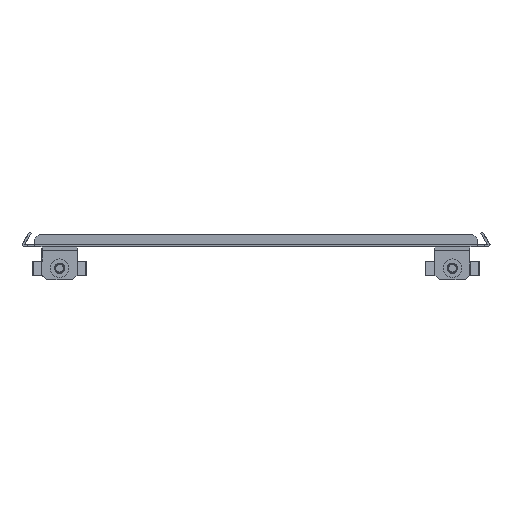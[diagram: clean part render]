
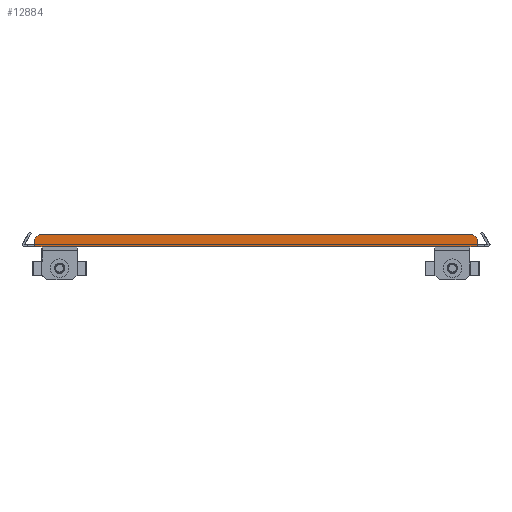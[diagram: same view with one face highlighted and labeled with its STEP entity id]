
A CAD part, left-side view. The second image highlights one B-rep face of the part: STEP entity #12884.
In plain terms, the highlighted planar face has unit normal (-1, 0, 0).
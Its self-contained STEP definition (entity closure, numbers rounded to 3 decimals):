
#278 = EDGE_CURVE ( 'NONE', #6383, #31876, #28405, .T. ) ;
#1086 = DIRECTION ( 'NONE',  ( 1., 0., 0. ) ) ;
#1773 = CARTESIAN_POINT ( 'NONE',  ( 1., -136.25, 6.5 ) ) ;
#1789 = VERTEX_POINT ( 'NONE', #21678 ) ;
#2214 = ORIENTED_EDGE ( 'NONE', *, *, #8541, .T. ) ;
#3262 = DIRECTION ( 'NONE',  ( 0., 0.707, -0.707 ) ) ;
#3403 = CARTESIAN_POINT ( 'NONE',  ( 1., -272.345, -1.5 ) ) ;
#3812 = VECTOR ( 'NONE', #18728, 1000. ) ;
#4441 = DIRECTION ( 'NONE',  ( 0., 0., -1. ) ) ;
#4830 = VECTOR ( 'NONE', #25253, 1000. ) ;
#5130 = VECTOR ( 'NONE', #15023, 1000. ) ;
#5813 = ORIENTED_EDGE ( 'NONE', *, *, #23209, .T. ) ;
#6383 = VERTEX_POINT ( 'NONE', #3403 ) ;
#7179 = ORIENTED_EDGE ( 'NONE', *, *, #27885, .T. ) ;
#7337 = VERTEX_POINT ( 'NONE', #25511 ) ;
#7494 = DIRECTION ( 'NONE',  ( 0., 0.707, 0.707 ) ) ;
#8541 = EDGE_CURVE ( 'NONE', #31957, #6383, #33841, .T. ) ;
#8567 = CARTESIAN_POINT ( 'NONE',  ( 1., -136.25, -1.5 ) ) ;
#8690 = AXIS2_PLACEMENT_3D ( 'NONE', #8567, #1086, #19688 ) ;
#8826 = LINE ( 'NONE', #32817, #16762 ) ;
#9122 = CARTESIAN_POINT ( 'NONE',  ( 1., 1.647, 6.5 ) ) ;
#9767 = DIRECTION ( 'NONE',  ( 0., 1., 0. ) ) ;
#10312 = CARTESIAN_POINT ( 'NONE',  ( 1., -136.25, -1.5 ) ) ;
#10639 = ORIENTED_EDGE ( 'NONE', *, *, #26320, .T. ) ;
#10882 = EDGE_CURVE ( 'NONE', #32218, #22510, #8826, .T. ) ;
#11346 = FACE_OUTER_BOUND ( 'NONE', #32501, .T. ) ;
#11495 = VECTOR ( 'NONE', #26319, 1000. ) ;
#12884 = ADVANCED_FACE ( 'NONE', ( #11346 ), #32574, .F. ) ;
#13557 = CARTESIAN_POINT ( 'NONE',  ( 1., 4.647, 3.5 ) ) ;
#13863 = ORIENTED_EDGE ( 'NONE', *, *, #15481, .T. ) ;
#14678 = EDGE_CURVE ( 'NONE', #24709, #31876, #21507, .T. ) ;
#15023 = DIRECTION ( 'NONE',  ( 0., -1., 0. ) ) ;
#15481 = EDGE_CURVE ( 'NONE', #1789, #32218, #25602, .T. ) ;
#15702 = ORIENTED_EDGE ( 'NONE', *, *, #18371, .T. ) ;
#16441 = VECTOR ( 'NONE', #28710, 1000. ) ;
#16542 = VECTOR ( 'NONE', #9767, 1000. ) ;
#16562 = ORIENTED_EDGE ( 'NONE', *, *, #18043, .T. ) ;
#16762 = VECTOR ( 'NONE', #3262, 1000. ) ;
#16938 = ORIENTED_EDGE ( 'NONE', *, *, #10882, .T. ) ;
#17763 = LINE ( 'NONE', #34080, #16441 ) ;
#18043 = EDGE_CURVE ( 'NONE', #24358, #7337, #21118, .T. ) ;
#18162 = VECTOR ( 'NONE', #7494, 1000. ) ;
#18371 = EDGE_CURVE ( 'NONE', #24709, #1789, #28725, .T. ) ;
#18728 = DIRECTION ( 'NONE',  ( 0., 0., -1. ) ) ;
#18901 = CARTESIAN_POINT ( 'NONE',  ( 1., -277.147, -1.5 ) ) ;
#19573 = CARTESIAN_POINT ( 'NONE',  ( 1., -277.147, 3.5 ) ) ;
#19688 = DIRECTION ( 'NONE',  ( 0., 0., 1. ) ) ;
#20347 = VECTOR ( 'NONE', #28116, 1000. ) ;
#20450 = LINE ( 'NONE', #25318, #20819 ) ;
#20792 = CARTESIAN_POINT ( 'NONE',  ( 1., -250., -1.5 ) ) ;
#20819 = VECTOR ( 'NONE', #4441, 1000. ) ;
#21118 = LINE ( 'NONE', #23539, #11495 ) ;
#21507 = LINE ( 'NONE', #18901, #3812 ) ;
#21557 = CARTESIAN_POINT ( 'NONE',  ( 1., 4.647, -1.5 ) ) ;
#21678 = CARTESIAN_POINT ( 'NONE',  ( 1., -274.147, 6.5 ) ) ;
#22510 = VERTEX_POINT ( 'NONE', #13557 ) ;
#23209 = EDGE_CURVE ( 'NONE', #22510, #31704, #20450, .T. ) ;
#23539 = CARTESIAN_POINT ( 'NONE',  ( 1., -136.25, -1.5 ) ) ;
#23622 = CARTESIAN_POINT ( 'NONE',  ( 1., -136.25, -1.5 ) ) ;
#24358 = VERTEX_POINT ( 'NONE', #33655 ) ;
#24709 = VERTEX_POINT ( 'NONE', #19573 ) ;
#25253 = DIRECTION ( 'NONE',  ( 0., -1., 0. ) ) ;
#25318 = CARTESIAN_POINT ( 'NONE',  ( 1., 4.647, -1.5 ) ) ;
#25511 = CARTESIAN_POINT ( 'NONE',  ( 1., -22.5, -1.5 ) ) ;
#25602 = LINE ( 'NONE', #1773, #16542 ) ;
#25716 = ORIENTED_EDGE ( 'NONE', *, *, #14678, .F. ) ;
#25842 = CARTESIAN_POINT ( 'NONE',  ( 1., -136.25, -1.5 ) ) ;
#26105 = CARTESIAN_POINT ( 'NONE',  ( 1., -209.199, 71.449 ) ) ;
#26320 = EDGE_CURVE ( 'NONE', #31704, #24358, #17763, .T. ) ;
#26319 = DIRECTION ( 'NONE',  ( 0., -1., 0. ) ) ;
#27885 = EDGE_CURVE ( 'NONE', #7337, #31957, #30997, .T. ) ;
#28116 = DIRECTION ( 'NONE',  ( 0., -1., 0. ) ) ;
#28405 = LINE ( 'NONE', #10312, #5130 ) ;
#28710 = DIRECTION ( 'NONE',  ( 0., -1., 0. ) ) ;
#28725 = LINE ( 'NONE', #26105, #18162 ) ;
#30997 = LINE ( 'NONE', #23622, #4830 ) ;
#31127 = ORIENTED_EDGE ( 'NONE', *, *, #278, .T. ) ;
#31704 = VERTEX_POINT ( 'NONE', #21557 ) ;
#31876 = VERTEX_POINT ( 'NONE', #34371 ) ;
#31957 = VERTEX_POINT ( 'NONE', #20792 ) ;
#32218 = VERTEX_POINT ( 'NONE', #9122 ) ;
#32501 = EDGE_LOOP ( 'NONE', ( #5813, #10639, #16562, #7179, #2214, #31127, #25716, #15702, #13863, #16938 ) ) ;
#32574 = PLANE ( 'NONE',  #8690 ) ;
#32817 = CARTESIAN_POINT ( 'NONE',  ( 1., -63.302, 71.449 ) ) ;
#33655 = CARTESIAN_POINT ( 'NONE',  ( 1., -0.155, -1.5 ) ) ;
#33841 = LINE ( 'NONE', #25842, #20347 ) ;
#34080 = CARTESIAN_POINT ( 'NONE',  ( 1., -136.25, -1.5 ) ) ;
#34371 = CARTESIAN_POINT ( 'NONE',  ( 1., -277.147, -1.5 ) ) ;
